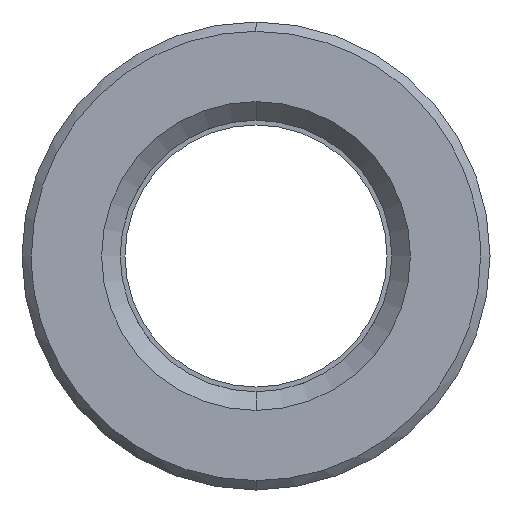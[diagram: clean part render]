
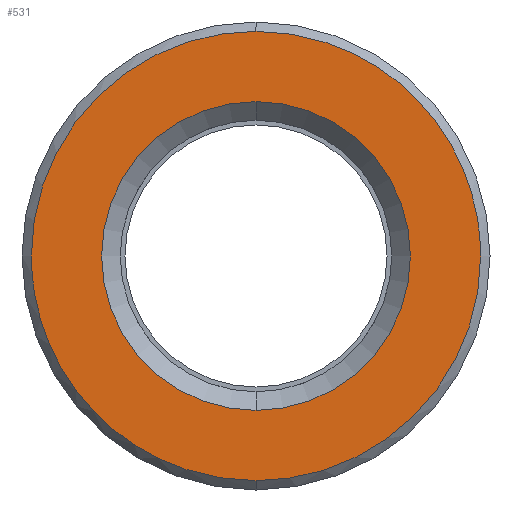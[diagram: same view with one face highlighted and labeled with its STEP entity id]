
A CAD part, left-side view. The second image highlights one B-rep face of the part: STEP entity #531.
In plain terms, the highlighted planar face has unit normal (-1, 0, 0).
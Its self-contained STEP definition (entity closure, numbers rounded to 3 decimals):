
#311=CARTESIAN_POINT('Axis2P3D Location',(0.,0.,0.)) ;
#315=CARTESIAN_POINT('Vertex',(0.,8.25,0.)) ;
#317=CARTESIAN_POINT('Vertex',(0.,0.,8.25)) ;
#320=CARTESIAN_POINT('Axis2P3D Location',(0.,0.,0.)) ;
#324=CARTESIAN_POINT('Vertex',(0.,0.,-8.25)) ;
#351=CARTESIAN_POINT('Axis2P3D Location',(0.,0.,0.)) ;
#355=CARTESIAN_POINT('Vertex',(0.,-8.25,0.)) ;
#358=CARTESIAN_POINT('Axis2P3D Location',(0.,0.,0.)) ;
#438=CARTESIAN_POINT('Axis2P3D Location',(0.,12.,0.)) ;
#444=CARTESIAN_POINT('Control Point',(0.,0.,-12.)) ;
#445=CARTESIAN_POINT('Control Point',(0.,0.982,-12.)) ;
#446=CARTESIAN_POINT('Control Point',(0.,1.964,-11.9)) ;
#447=CARTESIAN_POINT('Control Point',(0.,2.932,-11.699)) ;
#448=CARTESIAN_POINT('Control Point',(0.,5.011,-11.039)) ;
#449=CARTESIAN_POINT('Control Point',(0.,6.895,-9.93)) ;
#450=CARTESIAN_POINT('Control Point',(0.,7.845,-9.197)) ;
#451=CARTESIAN_POINT('Control Point',(0.,9.546,-7.512)) ;
#452=CARTESIAN_POINT('Control Point',(0.,10.784,-5.463)) ;
#453=CARTESIAN_POINT('Control Point',(0.,11.273,-4.367)) ;
#454=CARTESIAN_POINT('Control Point',(0.,11.741,-2.824)) ;
#455=CARTESIAN_POINT('Control Point',(0.,11.947,-1.236)) ;
#456=CARTESIAN_POINT('Control Point',(0.,11.982,-0.824)) ;
#457=CARTESIAN_POINT('Control Point',(0.,12.,-0.412)) ;
#458=CARTESIAN_POINT('Control Point',(0.,12.,0.)) ;
#459=CARTESIAN_POINT('Vertex',(0.,0.,-12.)) ;
#461=CARTESIAN_POINT('Vertex',(0.,12.,0.)) ;
#465=CARTESIAN_POINT('Control Point',(0.,-12.,0.)) ;
#466=CARTESIAN_POINT('Control Point',(0.,-12.,-1.188)) ;
#467=CARTESIAN_POINT('Control Point',(0.,-11.853,-2.376)) ;
#468=CARTESIAN_POINT('Control Point',(0.,-11.559,-3.54)) ;
#469=CARTESIAN_POINT('Control Point',(0.,-10.689,-5.77)) ;
#470=CARTESIAN_POINT('Control Point',(0.,-9.302,-7.721)) ;
#471=CARTESIAN_POINT('Control Point',(0.,-8.49,-8.605)) ;
#472=CARTESIAN_POINT('Control Point',(0.,-6.665,-10.155)) ;
#473=CARTESIAN_POINT('Control Point',(0.,-4.518,-11.213)) ;
#474=CARTESIAN_POINT('Control Point',(0.,-3.384,-11.606)) ;
#475=CARTESIAN_POINT('Control Point',(0.,-2.01,-11.897)) ;
#476=CARTESIAN_POINT('Control Point',(0.,-0.618,-11.987)) ;
#477=CARTESIAN_POINT('Control Point',(0.,-0.412,-11.996)) ;
#478=CARTESIAN_POINT('Control Point',(0.,-0.206,-12.)) ;
#479=CARTESIAN_POINT('Control Point',(0.,0.,-12.)) ;
#480=CARTESIAN_POINT('Vertex',(0.,-12.,0.)) ;
#484=CARTESIAN_POINT('Control Point',(0.,0.,12.)) ;
#485=CARTESIAN_POINT('Control Point',(0.,-0.982,12.)) ;
#486=CARTESIAN_POINT('Control Point',(0.,-1.964,11.9)) ;
#487=CARTESIAN_POINT('Control Point',(0.,-2.932,11.699)) ;
#488=CARTESIAN_POINT('Control Point',(0.,-5.011,11.039)) ;
#489=CARTESIAN_POINT('Control Point',(0.,-6.895,9.93)) ;
#490=CARTESIAN_POINT('Control Point',(0.,-7.845,9.197)) ;
#491=CARTESIAN_POINT('Control Point',(0.,-9.546,7.512)) ;
#492=CARTESIAN_POINT('Control Point',(0.,-10.784,5.463)) ;
#493=CARTESIAN_POINT('Control Point',(0.,-11.273,4.367)) ;
#494=CARTESIAN_POINT('Control Point',(0.,-11.741,2.824)) ;
#495=CARTESIAN_POINT('Control Point',(0.,-11.947,1.236)) ;
#496=CARTESIAN_POINT('Control Point',(0.,-11.982,0.824)) ;
#497=CARTESIAN_POINT('Control Point',(0.,-12.,0.412)) ;
#498=CARTESIAN_POINT('Control Point',(0.,-12.,0.)) ;
#499=CARTESIAN_POINT('Vertex',(0.,0.,12.)) ;
#503=CARTESIAN_POINT('Control Point',(0.,12.,0.)) ;
#504=CARTESIAN_POINT('Control Point',(0.,12.,1.188)) ;
#505=CARTESIAN_POINT('Control Point',(0.,11.853,2.376)) ;
#506=CARTESIAN_POINT('Control Point',(0.,11.559,3.54)) ;
#507=CARTESIAN_POINT('Control Point',(0.,10.689,5.77)) ;
#508=CARTESIAN_POINT('Control Point',(0.,9.302,7.721)) ;
#509=CARTESIAN_POINT('Control Point',(0.,8.49,8.605)) ;
#510=CARTESIAN_POINT('Control Point',(0.,6.665,10.155)) ;
#511=CARTESIAN_POINT('Control Point',(0.,4.518,11.213)) ;
#512=CARTESIAN_POINT('Control Point',(0.,3.384,11.606)) ;
#513=CARTESIAN_POINT('Control Point',(0.,2.01,11.897)) ;
#514=CARTESIAN_POINT('Control Point',(0.,0.618,11.987)) ;
#515=CARTESIAN_POINT('Control Point',(0.,0.412,11.996)) ;
#516=CARTESIAN_POINT('Control Point',(0.,0.206,12.)) ;
#517=CARTESIAN_POINT('Control Point',(0.,0.,12.)) ;
#312=DIRECTION('Axis2P3D Direction',(-1.,0.,0.)) ;
#321=DIRECTION('Axis2P3D Direction',(-1.,0.,0.)) ;
#352=DIRECTION('Axis2P3D Direction',(-1.,0.,0.)) ;
#359=DIRECTION('Axis2P3D Direction',(-1.,0.,0.)) ;
#439=DIRECTION('Axis2P3D Direction',(-1.,0.,0.)) ;
#440=DIRECTION('Axis2P3D XDirection',(0.,0.,1.)) ;
#313=AXIS2_PLACEMENT_3D('Circle Axis2P3D',#311,#312,$) ;
#322=AXIS2_PLACEMENT_3D('Circle Axis2P3D',#320,#321,$) ;
#353=AXIS2_PLACEMENT_3D('Circle Axis2P3D',#351,#352,$) ;
#360=AXIS2_PLACEMENT_3D('Circle Axis2P3D',#358,#359,$) ;
#441=AXIS2_PLACEMENT_3D('Plane Axis2P3D',#438,#439,#440) ;
#520=ORIENTED_EDGE('',*,*,#463,.F.) ;
#521=ORIENTED_EDGE('',*,*,#482,.F.) ;
#522=ORIENTED_EDGE('',*,*,#501,.F.) ;
#523=ORIENTED_EDGE('',*,*,#518,.F.) ;
#526=ORIENTED_EDGE('',*,*,#319,.T.) ;
#527=ORIENTED_EDGE('',*,*,#362,.T.) ;
#528=ORIENTED_EDGE('',*,*,#357,.T.) ;
#529=ORIENTED_EDGE('',*,*,#326,.T.) ;
#530=FACE_BOUND('',#525,.T.) ;
#531=ADVANCED_FACE('553-14x86',(#524,#530),#442,.T.) ;
#443=B_SPLINE_CURVE_WITH_KNOTS('',5,(#444,#445,#446,#447,#448,#449,#450,#451,#452,#453,#454,#455,#456,#457,#458),.UNSPECIFIED.,.F.,.U.,(6,3,3,3,6),(26.657,33.6,42.,50.399,53.312),.UNSPECIFIED.) ;
#464=B_SPLINE_CURVE_WITH_KNOTS('',5,(#465,#466,#467,#468,#469,#470,#471,#472,#473,#474,#475,#476,#477,#478,#479),.UNSPECIFIED.,.F.,.U.,(6,3,3,3,6),(0.,8.4,16.8,25.2,26.657),.UNSPECIFIED.) ;
#483=B_SPLINE_CURVE_WITH_KNOTS('',5,(#484,#485,#486,#487,#488,#489,#490,#491,#492,#493,#494,#495,#496,#497,#498),.UNSPECIFIED.,.F.,.U.,(6,3,3,3,6),(26.657,33.6,42.,50.399,53.312),.UNSPECIFIED.) ;
#502=B_SPLINE_CURVE_WITH_KNOTS('',5,(#503,#504,#505,#506,#507,#508,#509,#510,#511,#512,#513,#514,#515,#516,#517),.UNSPECIFIED.,.F.,.U.,(6,3,3,3,6),(0.,8.4,16.8,25.2,26.657),.UNSPECIFIED.) ;
#314=CIRCLE('generated circle',#313,8.25) ;
#323=CIRCLE('generated circle',#322,8.25) ;
#354=CIRCLE('generated circle',#353,8.25) ;
#361=CIRCLE('generated circle',#360,8.25) ;
#319=EDGE_CURVE('',#316,#318,#314,.F.) ;
#326=EDGE_CURVE('',#325,#316,#323,.F.) ;
#357=EDGE_CURVE('',#356,#325,#354,.F.) ;
#362=EDGE_CURVE('',#318,#356,#361,.F.) ;
#463=EDGE_CURVE('',#460,#462,#443,.T.) ;
#482=EDGE_CURVE('',#481,#460,#464,.T.) ;
#501=EDGE_CURVE('',#500,#481,#483,.T.) ;
#518=EDGE_CURVE('',#462,#500,#502,.T.) ;
#519=EDGE_LOOP('',(#520,#521,#522,#523)) ;
#525=EDGE_LOOP('',(#526,#527,#528,#529)) ;
#524=FACE_OUTER_BOUND('',#519,.T.) ;
#442=PLANE('Plane',#441) ;
#316=VERTEX_POINT('',#315) ;
#318=VERTEX_POINT('',#317) ;
#325=VERTEX_POINT('',#324) ;
#356=VERTEX_POINT('',#355) ;
#460=VERTEX_POINT('',#459) ;
#462=VERTEX_POINT('',#461) ;
#481=VERTEX_POINT('',#480) ;
#500=VERTEX_POINT('',#499) ;
